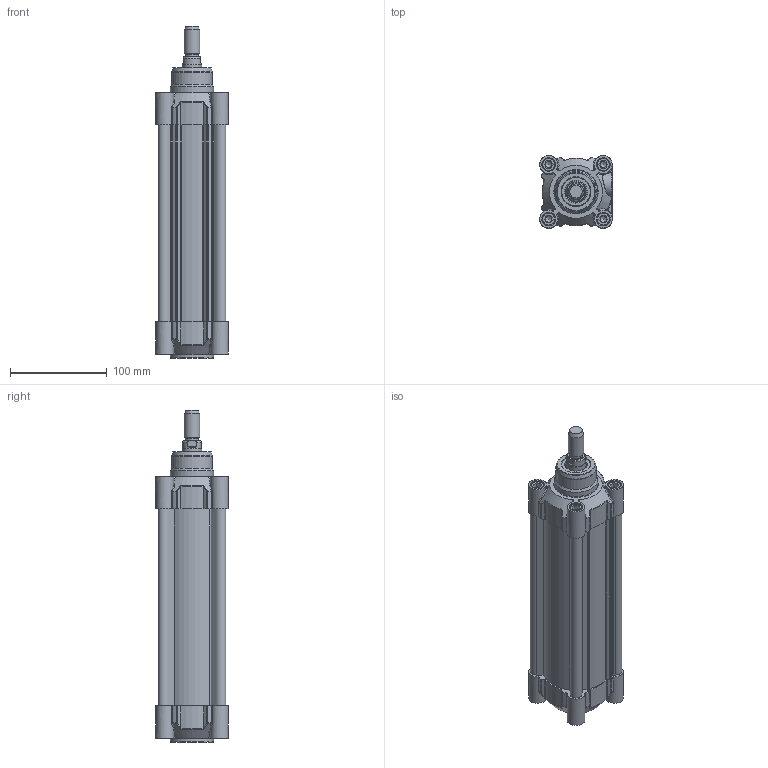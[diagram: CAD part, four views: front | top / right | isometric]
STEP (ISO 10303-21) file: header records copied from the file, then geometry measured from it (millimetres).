
FILE_DESCRIPTION(/* description */ ('CILINDRO D.E. MAGNETICO AMMORTIZZATO ISO 15552'),/* implementation_level */ '2;1');
FILE_NAME(/* name */ 'T:\Archivio Inventor\- 00 NUOVI STP PER SITO CON STELO CHE SI MUOVE\SERIE H - U\SERIE HDM\HDM063 - TUBO NUOVO\HDM063.150.GS.M.stp',/* time_stamp */ '2018-07-30T14:35:13+02:00',/* author */ ('carlo.corazza'),/* organization */ (''),/* preprocessor_version */ 'ST-DEVELOPER v16.5',/* originating_system */ 'Autodesk Inventor 2017',/* authorisation */ '');
FILE_SCHEMA (('AUTOMOTIVE_DESIGN { 1 0 10303 214 3 1 1 }'));
Length unit declared in the file: millimetre
Products named in the file (5): HDM063.150.GS.M; TP; TA; STELO-150; CORPO-150
Assembly tree (4 placements, depth 2):
  HDM063.150.GS.M
    TP
    TA
    STELO-150
    CORPO-150
Bounding box: 75 x 75 x 344 mm (x, y, z)
Volume: 555606.3 mm3; surface area: 249507.9 mm2
Topology: 4 solids, 27 shells, 1241 faces, 2936 edges, 1818 vertices
Faces by surface type: plane 368, cylinder 297, bspline 288, torus 108, cone 106, sphere 74
Full cylindrical faces by diameter (mm): 3 x2, 3.4 x2, 4.8 x2, 5.25 x2, 6.647 x8, 8 x8, 8.3 x12, 9.8 x4, 9.9 x2, 10 x6, 12 x3, 13 x8, 13.3 x8, 13.5 x1, 14.95 x2, 16 x1, 19.5 x1, 20 x1, 20.8 x1, 20.847 x1, 24 x1, 26 x2, 30 x3, 42 x1, 45 x2, 63 x1
Entity records: 40768 total; most frequent: CARTESIAN_POINT 13071, ORIENTED_EDGE 5326, DIRECTION 5100, EDGE_CURVE 2663, AXIS2_PLACEMENT_3D 2037, VERTEX_POINT 1763, EDGE_LOOP 1576, STYLED_ITEM 1245
